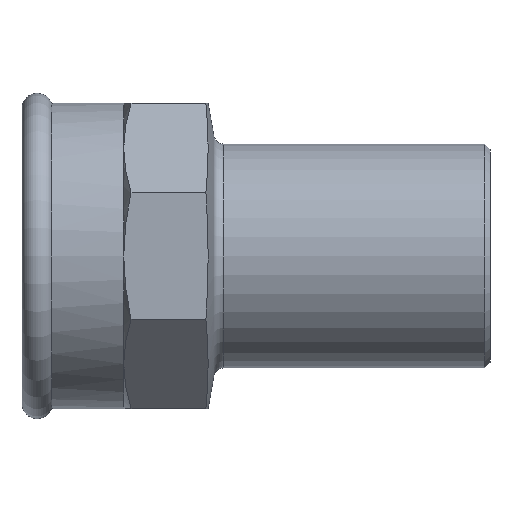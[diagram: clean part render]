
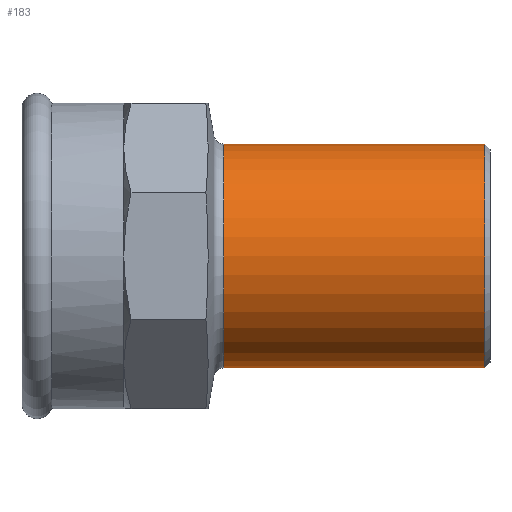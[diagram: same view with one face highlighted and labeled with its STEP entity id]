
A CAD part, left-side view. The second image highlights one B-rep face of the part: STEP entity #183.
In plain terms, the highlighted cylindrical face has radius 11 mm (diameter 22 mm), a partial arc.
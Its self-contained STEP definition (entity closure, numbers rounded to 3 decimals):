
#111 = DIRECTION ( 'NONE',  ( 0., -1., 0. ) ) ;
#131 = CARTESIAN_POINT ( 'NONE',  ( 0., 26.161, -11. ) ) ;
#141 = CIRCLE ( 'NONE', #1022, 11. ) ;
#176 = DIRECTION ( 'NONE',  ( 0., 0., -1. ) ) ;
#183 = ADVANCED_FACE ( 'NONE', ( #694 ), #950, .T. ) ;
#186 = ORIENTED_EDGE ( 'NONE', *, *, #415, .F. ) ;
#230 = DIRECTION ( 'NONE',  ( 0., -1., 0. ) ) ;
#244 = ORIENTED_EDGE ( 'NONE', *, *, #737, .T. ) ;
#247 = CARTESIAN_POINT ( 'NONE',  ( 0., 26.161, 0. ) ) ;
#296 = CARTESIAN_POINT ( 'NONE',  ( 0., -17.811, -11. ) ) ;
#372 = EDGE_CURVE ( 'NONE', #786, #570, #457, .T. ) ;
#383 = CARTESIAN_POINT ( 'NONE',  ( 0., 0.5, 0. ) ) ;
#385 = DIRECTION ( 'NONE',  ( 0., 0., -1. ) ) ;
#387 = DIRECTION ( 'NONE',  ( 0., 0., -1. ) ) ;
#394 = DIRECTION ( 'NONE',  ( 0., -1., 0. ) ) ;
#415 = EDGE_CURVE ( 'NONE', #428, #979, #1102, .T. ) ;
#428 = VERTEX_POINT ( 'NONE', #430 ) ;
#430 = CARTESIAN_POINT ( 'NONE',  ( 0., 26.161, 11. ) ) ;
#457 = LINE ( 'NONE', #296, #627 ) ;
#469 = CARTESIAN_POINT ( 'NONE',  ( 0., -17.811, 11. ) ) ;
#504 = ORIENTED_EDGE ( 'NONE', *, *, #1092, .F. ) ;
#570 = VERTEX_POINT ( 'NONE', #1186 ) ;
#600 = AXIS2_PLACEMENT_3D ( 'NONE', #247, #230, #176 ) ;
#627 = VECTOR ( 'NONE', #111, 1000. ) ;
#641 = CARTESIAN_POINT ( 'NONE',  ( 0., -17.811, 0. ) ) ;
#670 = AXIS2_PLACEMENT_3D ( 'NONE', #641, #896, #385 ) ;
#694 = FACE_OUTER_BOUND ( 'NONE', #1059, .T. ) ;
#737 = EDGE_CURVE ( 'NONE', #428, #786, #1168, .T. ) ;
#786 = VERTEX_POINT ( 'NONE', #131 ) ;
#896 = DIRECTION ( 'NONE',  ( 0., -1., 0. ) ) ;
#950 = CYLINDRICAL_SURFACE ( 'NONE', #670, 11. ) ;
#958 = CARTESIAN_POINT ( 'NONE',  ( 0., 0.5, 11. ) ) ;
#979 = VERTEX_POINT ( 'NONE', #958 ) ;
#1022 = AXIS2_PLACEMENT_3D ( 'NONE', #383, #394, #387 ) ;
#1023 = VECTOR ( 'NONE', #1100, 1000. ) ;
#1059 = EDGE_LOOP ( 'NONE', ( #186, #244, #1157, #504 ) ) ;
#1092 = EDGE_CURVE ( 'NONE', #979, #570, #141, .T. ) ;
#1100 = DIRECTION ( 'NONE',  ( 0., -1., 0. ) ) ;
#1102 = LINE ( 'NONE', #469, #1023 ) ;
#1157 = ORIENTED_EDGE ( 'NONE', *, *, #372, .T. ) ;
#1168 = CIRCLE ( 'NONE', #600, 11. ) ;
#1186 = CARTESIAN_POINT ( 'NONE',  ( 0., 0.5, -11. ) ) ;
